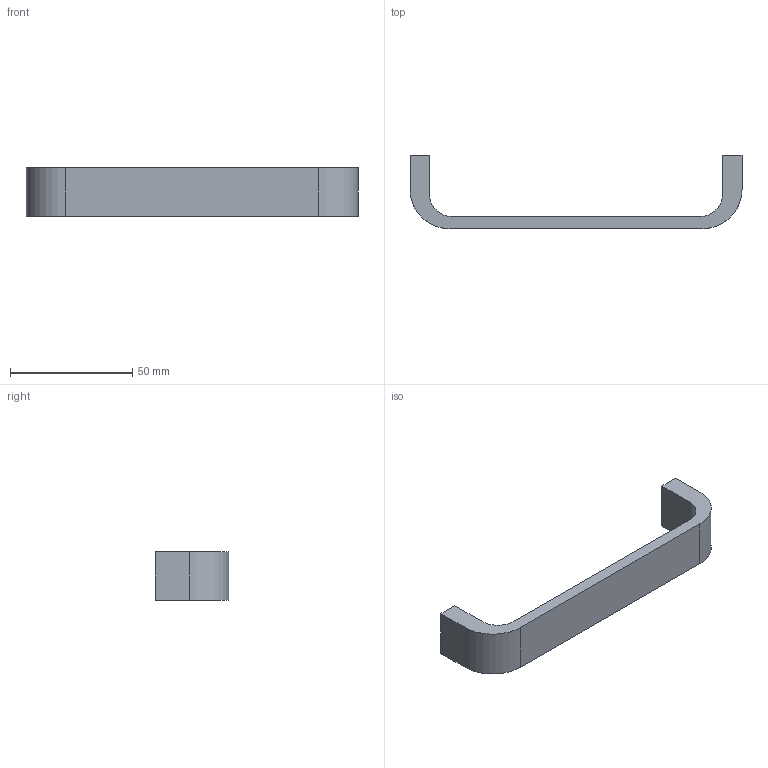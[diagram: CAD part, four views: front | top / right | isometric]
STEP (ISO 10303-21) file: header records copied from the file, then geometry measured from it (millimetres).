
FILE_DESCRIPTION( ( 'STEP AP214' ), '1' );
FILE_NAME( 'D:/Yug/2020/ProDecor_2020/QC/9266567.stp', '2020-06-01T11:41:30', ( '' ), ( '' ), ' ', 'PARTsolutions', ' ' );
FILE_SCHEMA( ( 'AUTOMOTIVE_DESIGN { 1 0 10303 214 1 1 1 1 }' ) );
Length unit declared in the file: millimetre
Products named in the file (1): _9266567
Bounding box: 136 x 30 x 20 mm (x, y, z)
Volume: 19965.1 mm3; surface area: 9383.9 mm2
Topology: 1 solids, 1 shells, 18 faces, 42 edges, 28 vertices
Faces by surface type: plane 12, cylinder 6
Full cylindrical faces by diameter (mm): 3.25 x2
Entity records: 668 total; most frequent: DIRECTION 90, CARTESIAN_POINT 87, ORIENTED_EDGE 80, EDGE_CURVE 40, AXIS2_PLACEMENT_3D 31, VERTEX_POINT 28, LINE 28, VECTOR 28
